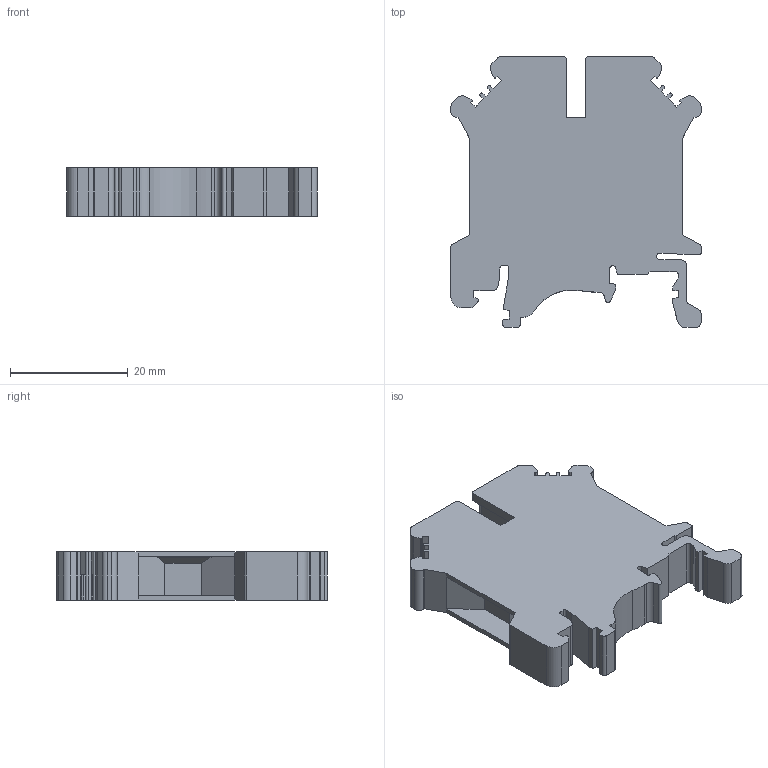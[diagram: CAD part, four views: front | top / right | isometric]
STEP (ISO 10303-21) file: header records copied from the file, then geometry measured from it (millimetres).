
FILE_DESCRIPTION((''),'2;1');
FILE_NAME('PRT0013','2020-05-30T',('Administrator'),(''),'PRO/ENGINEER BY PARAMETRIC TECHNOLOGY CORPORATION, 2014000','PRO/ENGINEER BY PARAMETRIC TECHNOLOGY CORPORATION, 2014000','');
FILE_SCHEMA(('CONFIG_CONTROL_DESIGN'));
Length unit declared in the file: millimetre
Products named in the file (1): PRT0013
Bounding box: 42.5 x 46 x 8.2 mm (x, y, z)
Volume: 10155.1 mm3; surface area: 5713.8 mm2
Topology: 1 solids, 1 shells, 227 faces, 648 edges, 425 vertices
Faces by surface type: plane 151, cylinder 72, cone 4
Entity records: 7406 total; most frequent: CARTESIAN_POINT 1336, ORIENTED_EDGE 1296, DIRECTION 1229, EDGE_CURVE 648, VECTOR 503, LINE 503, VERTEX_POINT 425, AXIS2_PLACEMENT_3D 363
